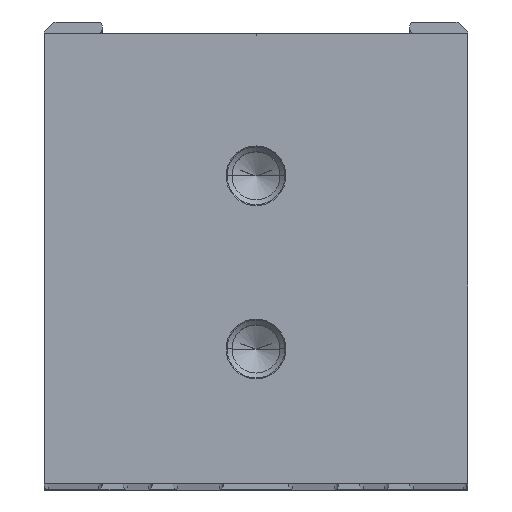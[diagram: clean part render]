
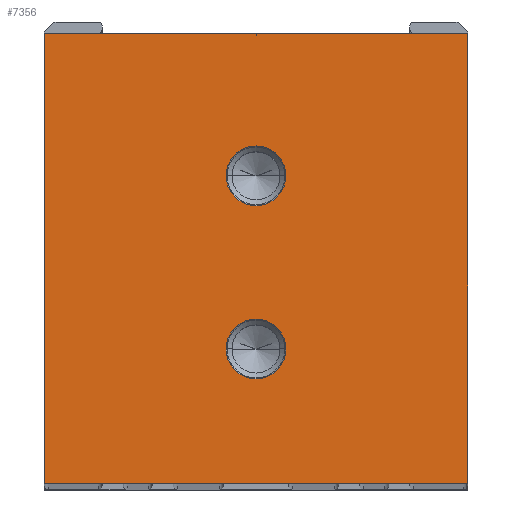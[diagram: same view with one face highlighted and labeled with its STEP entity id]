
A CAD part, top view. The second image highlights one B-rep face of the part: STEP entity #7356.
In plain terms, the highlighted planar face has unit normal (0, 0, 1).
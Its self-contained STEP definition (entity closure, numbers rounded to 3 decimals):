
#2574=DIRECTION('',(-1.,0.,0.));
#2575=VECTOR('',#2574,22.);
#2576=CARTESIAN_POINT('',(11.,11.402,88.5));
#2577=LINE('',#2576,#2575);
#2578=DIRECTION('',(0.,1.,0.));
#2579=VECTOR('',#2578,23.387);
#2580=CARTESIAN_POINT('',(11.,-11.985,88.5));
#2581=LINE('',#2580,#2579);
#2582=DIRECTION('',(1.,0.001,0.));
#2583=VECTOR('',#2582,22.);
#2584=CARTESIAN_POINT('',(-11.,-12.007,88.5));
#2585=LINE('',#2584,#2583);
#2586=DIRECTION('',(0.,-1.,0.));
#2587=VECTOR('',#2586,23.409);
#2588=CARTESIAN_POINT('',(-11.,11.402,88.5));
#2589=LINE('',#2588,#2587);
#2590=CARTESIAN_POINT('',(0.,-4.996,88.5));
#2591=DIRECTION('',(0.,0.,-1.));
#2592=DIRECTION('',(-1.,0.,0.));
#2593=AXIS2_PLACEMENT_3D('',#2590,#2591,#2592);
#2595=CARTESIAN_POINT('',(0.,-4.996,
88.5));
#2596=DIRECTION('',(0.,0.,-1.));
#2597=DIRECTION('',(1.,0.,0.));
#2598=AXIS2_PLACEMENT_3D('',#2595,#2596,#2597);
#2600=CARTESIAN_POINT('',(0.,4.004,88.5));
#2601=DIRECTION('',(0.,0.,-1.));
#2602=DIRECTION('',(-1.,0.,0.));
#2603=AXIS2_PLACEMENT_3D('',#2600,#2601,#2602);
#2605=CARTESIAN_POINT('',(0.,4.004,
88.5));
#2606=DIRECTION('',(0.,0.,-1.));
#2607=DIRECTION('',(1.,0.,0.));
#2608=AXIS2_PLACEMENT_3D('',#2605,#2606,#2607);
#2934=CARTESIAN_POINT('',(-11.,11.402,88.5));
#2935=CARTESIAN_POINT('',(-11.,-12.007,88.5));
#2936=VERTEX_POINT('',#2934);
#2937=VERTEX_POINT('',#2935);
#2938=CARTESIAN_POINT('',(11.,-11.985,88.5));
#2939=VERTEX_POINT('',#2938);
#2940=CARTESIAN_POINT('',(11.,11.402,88.5));
#2941=VERTEX_POINT('',#2940);
#3731=CARTESIAN_POINT('',(-1.55,-4.996,
88.5));
#3732=CARTESIAN_POINT('',(1.55,-4.996,88.5));
#3733=VERTEX_POINT('',#3731);
#3734=VERTEX_POINT('',#3732);
#3739=CARTESIAN_POINT('',(-1.55,4.004,88.5));
#3740=CARTESIAN_POINT('',(1.55,4.004,88.5));
#3741=VERTEX_POINT('',#3739);
#3742=VERTEX_POINT('',#3740);
#7333=CARTESIAN_POINT('',(0.,0.,88.5));
#7334=DIRECTION('',(0.,0.,1.));
#7335=DIRECTION('',(1.,0.,0.));
#7336=AXIS2_PLACEMENT_3D('',#7333,#7334,#7335);
#7337=PLANE('',#7336);
#7338=ORIENTED_EDGE('',*,*,#3812,.F.);
#7339=ORIENTED_EDGE('',*,*,#3907,.F.);
#7340=ORIENTED_EDGE('',*,*,#4699,.F.);
#7341=ORIENTED_EDGE('',*,*,#4060,.F.);
#7342=EDGE_LOOP('',(#7338,#7339,#7340,#7341));
#7343=FACE_OUTER_BOUND('',#7342,.F.);
#7345=ORIENTED_EDGE('',*,*,#7344,.F.);
#7347=ORIENTED_EDGE('',*,*,#7346,.F.);
#7348=EDGE_LOOP('',(#7345,#7347));
#7349=FACE_BOUND('',#7348,.F.);
#7351=ORIENTED_EDGE('',*,*,#7350,.F.);
#7353=ORIENTED_EDGE('',*,*,#7352,.F.);
#7354=EDGE_LOOP('',(#7351,#7353));
#7355=FACE_BOUND('',#7354,.F.);
#2594=CIRCLE('',#2593,1.55);
#2599=CIRCLE('',#2598,1.55);
#2604=CIRCLE('',#2603,1.55);
#2609=CIRCLE('',#2608,1.55);
#3812=EDGE_CURVE('',#2941,#2936,#2577,.T.);
#3907=EDGE_CURVE('',#2939,#2941,#2581,.T.);
#4060=EDGE_CURVE('',#2936,#2937,#2589,.T.);
#4699=EDGE_CURVE('',#2937,#2939,#2585,.T.);
#7344=EDGE_CURVE('',#3733,#3734,#2594,.T.);
#7346=EDGE_CURVE('',#3734,#3733,#2599,.T.);
#7350=EDGE_CURVE('',#3741,#3742,#2604,.T.);
#7352=EDGE_CURVE('',#3742,#3741,#2609,.T.);
#7356=ADVANCED_FACE('',(#7343,#7349,#7355),#7337,.T.);
